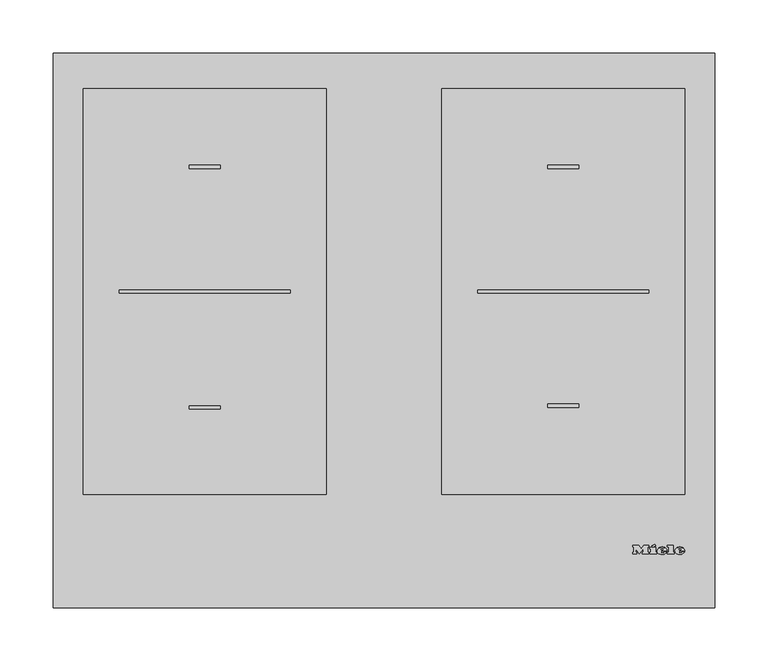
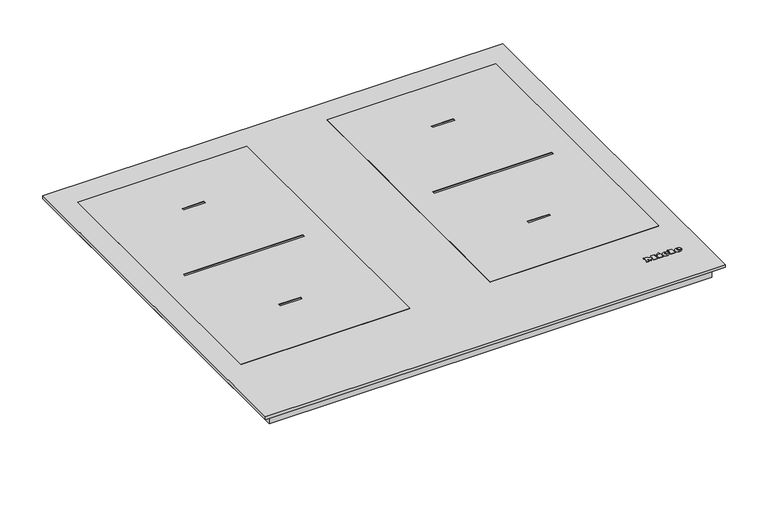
"""IFC4 building model written with IfcOpenShell, lengths in millimetres: proxy geometry, 11206090_RU_KM7465FL : 26746570_RU_11206090_KM7465FL."""

import ifcopenshell
import ifcopenshell.guid

model = None  # the IFC model being written
_history = None  # IfcOwnerHistory: only IFC2X3 demands one
_inside = {}  # id of a spatial element -> (the spatial element, [elements in it])
_under = {}  # id of a project, library or spatial element -> (it, [spatial elements below it])
_declared = {}  # id of a project -> (the project, [libraries it declares])
_typed = {}  # id of a type object -> (the type object, [elements of that type])
_made_of = {}  # id of a material, layer set ... -> (it, [elements and type objects made of it])


def new_model(schema):
    """Start an empty IFC model of exactly this schema.

    Asked for "IFC4X3", IfcOpenShell would pick the latest addendum, in which some entities
    have other attributes; the version numbers below select the first issue.
    IFC2X3 requires an IfcOwnerHistory on every rooted entity: one is made here for all.
    """
    global model, _history
    if schema == "IFC4X3":
        model = ifcopenshell.file(schema_version=(4, 3, 0, 0))
    else:
        model = ifcopenshell.file(schema=schema)
    _inside.clear()
    _under.clear()
    _declared.clear()
    _typed.clear()
    _made_of.clear()
    _history = None
    if model.schema == "IFC2X3":
        org = make("IfcOrganization", Name="unknown")
        user = make(
            "IfcPersonAndOrganization",
            ThePerson=make("IfcPerson", FamilyName="unknown"),
            TheOrganization=org,
        )
        app = make(
            "IfcApplication",
            ApplicationDeveloper=org,
            Version="unknown",
            ApplicationFullName="unknown",
            ApplicationIdentifier="unknown",
        )
        _history = make(
            "IfcOwnerHistory",
            OwningUser=user,
            OwningApplication=app,
            ChangeAction="ADDED",
            CreationDate=0,
        )
    return model


def make(cls, **values):
    """One entity of the class cls with the attributes given. An attribute that is None is left unset."""
    return model.create_entity(
        cls, **{name: value for name, value in values.items() if value is not None}
    )


def rooted(cls, **values):
    """An entity with a GlobalId (a new one), such as an element, a storey or a relation."""
    return make(cls, GlobalId=ifcopenshell.guid.new(), OwnerHistory=_history, **values)


def si_unit(unit_type, name, prefix=None):
    """IfcSIUnit, for example si_unit("LENGTHUNIT", "METRE", prefix="MILLI")."""
    return make("IfcSIUnit", UnitType=unit_type, Prefix=prefix, Name=name)


def assignment(units):
    """IfcUnitAssignment: the units of a project."""
    return None if units is None else make("IfcUnitAssignment", Units=units)


def point(xyz):
    """IfcCartesianPoint."""
    return None if xyz is None else make("IfcCartesianPoint", Coordinates=xyz)


def direction(xyz):
    """IfcDirection."""
    return None if xyz is None else make("IfcDirection", DirectionRatios=xyz)


def frame(location, z_axis=None, x_axis=None):
    """IfcAxis2Placement3D, a coordinate frame: its origin and axes. An axis left out is left unset."""
    return make(
        "IfcAxis2Placement3D",
        Location=point(location),
        Axis=direction(z_axis),
        RefDirection=direction(x_axis),
    )


def frame_2d(location, x_axis=None):
    """IfcAxis2Placement2D, a coordinate frame in the plane: its origin and x axis."""
    return make(
        "IfcAxis2Placement2D", Location=point(location), RefDirection=direction(x_axis)
    )


def origin():
    """The frame at (0, 0, 0) with its axes left unset."""
    return frame((0.0, 0.0, 0.0))


def origin_with_axes():
    """The frame at (0, 0, 0) with the z axis (0, 0, 1) and the x axis (1, 0, 0) written out."""
    return frame((0.0, 0.0, 0.0), z_axis=(0.0, 0.0, 1.0), x_axis=(1.0, 0.0, 0.0))


def place(relative_to, where):
    """IfcLocalPlacement: puts the frame where relative to a parent placement (None: the world)."""
    return make(
        "IfcLocalPlacement", PlacementRelTo=relative_to, RelativePlacement=where
    )


def context(
    kind, dimensions, precision=None, world=None, true_north=None, identifier=None
):
    """IfcGeometricRepresentationContext, for example the 3D "Model" context."""
    return make(
        "IfcGeometricRepresentationContext",
        ContextIdentifier=identifier,
        ContextType=kind,
        CoordinateSpaceDimension=dimensions,
        Precision=precision,
        WorldCoordinateSystem=world,
        TrueNorth=true_north,
    )


def project(units=None, contexts=None):
    """IfcProject with its units and contexts."""
    return rooted(
        "IfcProject",
        Name="project",
        RepresentationContexts=contexts,
        UnitsInContext=assignment(units),
    )


def spatial(cls, under=None, at=None, **own):
    """A site, building, storey or space (cls), placed at a placement, below another one or the project."""
    s = rooted(cls, ObjectPlacement=at, **own)
    if under is not None:
        _under.setdefault(under.id(), (under, []))[1].append(s)
    return s


def polyline(points):
    """IfcPolyline through the points."""
    return make("IfcPolyline", Points=[point(p) for p in points])


def circle_curve(where, radius):
    """IfcCircle in the frame where."""
    return make("IfcCircle", Position=where, Radius=radius)


def ellipse_curve(where, semi_axis1, semi_axis2):
    """IfcEllipse in the frame where."""
    return make(
        "IfcEllipse", Position=where, SemiAxis1=semi_axis1, SemiAxis2=semi_axis2
    )


def trimmed(basis, trim1, trim2, sense, master):
    """IfcTrimmedCurve: the piece of a basis curve between two trims."""
    return make(
        "IfcTrimmedCurve",
        BasisCurve=basis,
        Trim1=trim1,
        Trim2=trim2,
        SenseAgreement=sense,
        MasterRepresentation=master,
    )


def segment(curve, same_sense, transition):
    """IfcCompositeCurveSegment."""
    return make(
        "IfcCompositeCurveSegment",
        Transition=transition,
        SameSense=same_sense,
        ParentCurve=curve,
    )


def composite_curve(segments, self_intersect=None):
    """IfcCompositeCurve: segments joined end to end."""
    return make("IfcCompositeCurve", Segments=segments, SelfIntersect=self_intersect)


def outline(outer, holes=None, kind="AREA"):
    """IfcArbitraryClosedProfileDef: a profile drawn as a closed curve; with holes, ...WithVoids."""
    if holes is None:
        return make("IfcArbitraryClosedProfileDef", ProfileType=kind, OuterCurve=outer)
    return make(
        "IfcArbitraryProfileDefWithVoids",
        ProfileType=kind,
        OuterCurve=outer,
        InnerCurves=holes,
    )


def extrude(swept, where, along, depth):
    """IfcExtrudedAreaSolid: the profile swept, set in the frame where, extruded along a direction by depth."""
    return make(
        "IfcExtrudedAreaSolid",
        SweptArea=swept,
        Position=where,
        ExtrudedDirection=direction(along),
        Depth=depth,
    )


def shape(context_of_items, identifier, shape_type, items):
    """IfcShapeRepresentation: the items that make up one representation, for example the "Body"."""
    return make(
        "IfcShapeRepresentation",
        ContextOfItems=context_of_items,
        RepresentationIdentifier=identifier,
        RepresentationType=shape_type,
        Items=items,
    )


def source(mapping_origin, context_of_items, identifier, shape_type, items):
    """IfcRepresentationMap: a shape defined once, which mapped items show again and again."""
    return make(
        "IfcRepresentationMap",
        MappingOrigin=mapping_origin,
        MappedRepresentation=shape(context_of_items, identifier, shape_type, items),
    )


def transform(
    local_origin,
    x_axis=None,
    y_axis=None,
    z_axis=None,
    scale=None,
    scale2=None,
    scale3=None,
    uniform=True,
):
    """IfcCartesianTransformationOperator3D, or its non-uniform kind. x_axis, y_axis, z_axis: its Axis1, 2, 3."""
    if uniform:
        return make(
            "IfcCartesianTransformationOperator3D",
            Axis1=direction(x_axis),
            Axis2=direction(y_axis),
            LocalOrigin=point(local_origin),
            Scale=scale,
            Axis3=direction(z_axis),
        )
    return make(
        "IfcCartesianTransformationOperator3DnonUniform",
        Axis1=direction(x_axis),
        Axis2=direction(y_axis),
        LocalOrigin=point(local_origin),
        Scale=scale,
        Axis3=direction(z_axis),
        Scale2=scale2,
        Scale3=scale3,
    )


def mapped(mapping_source, mapping_target):
    """IfcMappedItem: shows the shape of a source again, moved by a transform."""
    return make(
        "IfcMappedItem", MappingSource=mapping_source, MappingTarget=mapping_target
    )


def made_of(thing, what):
    """Note that an element or type object is made of a material, layer set ...; save() writes the relation."""
    if what is not None:
        _made_of.setdefault(what.id(), (what, []))[1].append(thing)
    return thing


def element(
    cls,
    number,
    at=None,
    inside=None,
    cuts=None,
    type_object=None,
    material=None,
    context=None,
    identifier="Body",
    shape_type=None,
    held_by="IfcProductDefinitionShape",
    body=None,
    shapes=None,
    **own,
):
    """One element of the class cls, such as IfcWall. Its Tag is "e" and its number.

    at: its placement. inside: the storey or other place that contains it. cuts: it is an
    opening in that element (IfcRelVoidsElement). A single representation is given by context,
    identifier, shape_type and body (its items); several are given by shapes. held_by: the class
    of the entity that holds the representations. save() writes the other relations.
    """
    e = rooted(cls, Tag="e%d" % number, ObjectPlacement=at, **own)
    if body is not None:
        shapes = [shape(context, identifier, shape_type, body)]
    if shapes is not None:
        e.Representation = make(held_by, Representations=shapes)
    if inside is not None:
        _inside.setdefault(inside.id(), (inside, []))[1].append(e)
    if cuts is not None:
        rooted(
            "IfcRelVoidsElement", RelatingBuildingElement=cuts, RelatedOpeningElement=e
        )
    if type_object is not None:
        _typed.setdefault(type_object.id(), (type_object, []))[1].append(e)
    return made_of(e, material)


def aggregate(whole, parts):
    """IfcRelAggregates: a whole, such as a stair, and the parts it consists of."""
    return rooted("IfcRelAggregates", RelatingObject=whole, RelatedObjects=parts)


def save(model, path):
    """Write the relations noted so far, then the file.

    IfcRelAggregates (storeys below a building ...), IfcRelContainedInSpatialStructure (elements
    in a storey), IfcRelDefinesByType, IfcRelAssociatesMaterial and IfcRelDeclares: one each for
    every whole, place, type object, material and project.
    """
    for whole, parts in _under.values():
        aggregate(whole, parts)
    for where, things in _inside.values():
        rooted(
            "IfcRelContainedInSpatialStructure",
            RelatedElements=things,
            RelatingStructure=where,
        )
    for kind, things in _typed.values():
        rooted("IfcRelDefinesByType", RelatedObjects=things, RelatingType=kind)
    for what, things in _made_of.values():
        rooted("IfcRelAssociatesMaterial", RelatedObjects=things, RelatingMaterial=what)
    for by, libraries in _declared.values():
        rooted("IfcRelDeclares", RelatingContext=by, RelatedDefinitions=libraries)
    model.write(path)


def plane_surface(at):
    """IfcPlane: the flat surface through the origin of the frame at, square to its z axis."""
    return make("IfcPlane", Position=at)


def cylinder_surface(at, radius):
    """IfcCylindricalSurface: all points at the distance radius from the z axis of the frame at."""
    return make("IfcCylindricalSurface", Position=at, Radius=radius)


def revolved_surface(curve, axis_point, axis_direction):
    """IfcSurfaceOfRevolution: the curve turned about the line through axis_point along axis_direction."""
    return make(
        "IfcSurfaceOfRevolution",
        SweptCurve=make("IfcArbitraryOpenProfileDef", ProfileType="CURVE", Curve=curve),
        AxisPosition=make("IfcAxis1Placement", Location=point(axis_point), Axis=direction(axis_direction)),
    )


def extruded_surface(curve, direction_of_extrusion, depth):
    """IfcSurfaceOfLinearExtrusion: the curve pushed along a direction by depth."""
    return make(
        "IfcSurfaceOfLinearExtrusion",
        SweptCurve=make("IfcArbitraryOpenProfileDef", ProfileType="CURVE", Curve=curve),
        ExtrudedDirection=direction(direction_of_extrusion),
        Depth=depth,
    )


def advanced_brep(points, edges, surfaces, faces):
    """IfcAdvancedBrep: a solid bounded by faces that lie on surfaces and meet in shared edges.

    An edge is (start, end): straight between two places in points (the first is 0);
    or (start, end, curve); or (start, end, curve, False) where it runs against its curve.
    A face is (place in surfaces, loops), or (place, loops, False) where it looks against
    its surface's normal. A loop lists edges by number (the first is 1), with a minus sign
    where the edge is run from its end to its start. The first loop is the outer one.
    """
    corners = [point(p) for p in points]
    vertices = [make("IfcVertexPoint", VertexGeometry=c) for c in corners]
    made = []
    for start, end, *more in edges:
        made.append(
            make(
                "IfcEdgeCurve",
                EdgeStart=vertices[start],
                EdgeEnd=vertices[end],
                EdgeGeometry=more[0] if more else make("IfcPolyline", Points=[corners[start], corners[end]]),
                SameSense=more[1] if len(more) > 1 else True,
            )
        )
    hull = []
    for where, loops, *sense in faces:
        bounds = []
        for j, loop in enumerate(loops):
            ring = [make("IfcOrientedEdge", EdgeElement=made[abs(k) - 1], Orientation=k > 0) for k in loop]
            bounds.append(
                make(
                    "IfcFaceOuterBound" if j == 0 else "IfcFaceBound",
                    Bound=make("IfcEdgeLoop", EdgeList=ring),
                    Orientation=True,
                )
            )
        hull.append(make("IfcAdvancedFace", Bounds=bounds, FaceSurface=surfaces[where], SameSense=sense[0] if sense else True))
    return make("IfcAdvancedBrep", Outer=make("IfcClosedShell", CfsFaces=hull))


def specialty_equipment_fb43af33(model_context):
    return source(origin(), model_context, "Body", "SolidModel", [
        advanced_brep(
        [(276.66, 52.1948833, 4.4802537), (276.66, 53.0028828, 4.4811551), (282.012, 53.0028828, 4.4811551), (272.7, 53.0028828, 4.4811551), (274.9, 50.2988845, 4.4781386), (281.876, 52.1948833, 4.4802537), (279.46, 52.1948833, 4.4802537), (277.556, 51.2988838, 4.4792542), (276.66, 54.0268821, 4.4822974), (276.66, 54.8988816, 4.4832701), (278.028, 54.8988816, 4.4832701), (278.028, 54.0268821, 4.4822974), (276.66, 52.1959988, 3.4802543), (277.556, 51.2999994, 3.4792548), (279.46, 52.1959988, 3.4802543), (281.876, 52.1959988, 3.4802543), (274.9, 50.3, 3.4781393), (272.7, 53.0039983, 3.4811557), (282.012, 53.0039983, 3.4811557), (276.66, 53.0039983, 3.4811557), (276.66, 54.0279977, 3.482298), (278.028, 54.0279977, 3.482298), (278.028, 54.8999971, 3.4832707), (276.66, 54.8999971, 3.4832707)],
        [
            (0, 1),
            (1, 2),
            (2, 3, ellipse_curve(frame((277.356, 53.0028828, 4.4811551), z_axis=(0.0, -0.0011155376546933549, 0.9999993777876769), x_axis=(-1.0, 0.0, 0.0)), 4.656, 3.848)),
            (3, 4, circle_curve(frame((275.7960436, 53.2748826, 4.4814585), z_axis=(0.0, -0.0011155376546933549, 0.9999993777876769), x_axis=(0.0, -0.9999993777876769, -0.0011155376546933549)), 3.1079688)),
            (4, 5, circle_curve(frame((277.2627936, 55.3868813, 4.4838145), z_axis=(0.0, -0.0011155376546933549, 0.9999993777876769), x_axis=(0.0, -0.9999993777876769, -0.0011155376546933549)), 5.6098607)),
            (5, 6),
            (6, 7, circle_curve(frame((277.9470588, 52.9388828, 4.4810837), z_axis=(0.0, 0.0011155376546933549, -0.9999993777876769), x_axis=(0.0, -0.9999993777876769, -0.0011155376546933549)), 1.6859795)),
            (7, 0, circle_curve(frame((277.556, 52.1948833, 4.4802537), z_axis=(0.0, 0.0011155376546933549, -0.9999993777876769), x_axis=(0.0, -0.9999993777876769, -0.0011155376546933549)), 0.896)),
            (8, 9),
            (9, 10, circle_curve(frame((277.344, 54.8988816, 4.4832701), z_axis=(0.0, 0.0011155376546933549, -0.9999993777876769), x_axis=(0.0, -0.9999993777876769, -0.0011155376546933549)), 0.684)),
            (10, 11),
            (11, 8),
            (12, 13, circle_curve(frame((277.556, 52.1959988, 3.4802543), z_axis=(0.0, -0.0011155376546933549, 0.9999993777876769), x_axis=(0.0, -0.9999993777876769, -0.0011155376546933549)), 0.896)),
            (13, 14, circle_curve(frame((277.9470588, 52.9399984, 3.4810843), z_axis=(0.0, -0.0011155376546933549, 0.9999993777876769), x_axis=(0.0, -0.9999993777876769, -0.0011155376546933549)), 1.6859795)),
            (14, 15),
            (15, 16, circle_curve(frame((277.2627936, 55.3879968, 3.4838151), z_axis=(0.0, 0.0011155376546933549, -0.9999993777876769), x_axis=(0.0, -0.9999993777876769, -0.0011155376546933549)), 5.6098607)),
            (16, 17, circle_curve(frame((275.7960436, 53.2759981, 3.4814591), z_axis=(0.0, 0.0011155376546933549, -0.9999993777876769), x_axis=(0.0, -0.9999993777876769, -0.0011155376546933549)), 3.1079688)),
            (17, 18, ellipse_curve(frame((277.356, 53.0039983, 3.4811557), z_axis=(0.0, 0.0011155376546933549, -0.9999993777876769), x_axis=(-1.0, 0.0, 0.0)), 4.656, 3.848)),
            (18, 19),
            (19, 12),
            (20, 21),
            (21, 22),
            (22, 23, circle_curve(frame((277.344, 54.8999971, 3.4832707), z_axis=(0.0, -0.0011155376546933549, 0.9999993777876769), x_axis=(0.0, -0.9999993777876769, -0.0011155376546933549)), 0.684)),
            (23, 20),
            (0, 12),
            (19, 1),
            (18, 2),
            (5, 15),
            (14, 6),
            (17, 3),
            (13, 7),
            (16, 4),
            (8, 20),
            (23, 9),
            (22, 10),
            (21, 11),
        ],
        [
            plane_surface(frame((276.66, 53.0028828, 4.4811551), z_axis=(0.0, -0.0011155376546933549, 0.9999993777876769), x_axis=(0.0, 0.9999993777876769, 0.0011155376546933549))),
            plane_surface(frame((276.66, 53.0039983, 3.4811557), z_axis=(0.0, 0.0011155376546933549, -0.9999993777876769), x_axis=(0.0, -0.9999993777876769, -0.0011155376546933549))),
            plane_surface(frame((276.66, 52.1948833, 4.4802537), z_axis=(1.0000000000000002, 0.0, 0.0), x_axis=(0.0, 0.001115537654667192, -0.999999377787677))),
            plane_surface(frame((276.66, 53.0028828, 4.4811551), z_axis=(0.0, -0.999999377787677, -0.001115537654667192), x_axis=(0.0, 0.001115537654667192, -0.999999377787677))),
            plane_surface(frame((281.876, 52.1948833, 4.4802537), z_axis=(0.0, 0.999999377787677, 0.001115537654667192), x_axis=(0.0, 0.001115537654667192, -0.999999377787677))),
            extruded_surface(trimmed(ellipse_curve(frame((277.356, 53.0051139, 2.4811563), z_axis=(0.0, -0.0011155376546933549, 0.9999993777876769), x_axis=(-1.0, 0.0, 0.0)), 4.656, 3.848), [point((282.012, 53.0051139, 2.4811563))], [point((272.7, 53.0051139, 2.4811563))], True, "CARTESIAN"), (0.0, -0.001115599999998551, 0.9999994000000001), 1.00000002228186),
            revolved_surface(polyline([(277.9470588, 51.25401994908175, 3.479203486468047), (277.9470588, 51.25290441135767, 4.4792029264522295)]), (277.9470588, 52.9399984, 3.4810843), (0.0, 0.0011155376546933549, -0.9999993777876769)),
            revolved_surface(polyline([(277.556, 51.29999935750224, 3.4792547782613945), (277.556, 51.29888381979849, 4.479254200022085)]), (277.556, 52.1959988, 3.4802543), (0.0, 0.0011155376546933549, -0.9999993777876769)),
            cylinder_surface(frame((275.7960436, 53.2759981, 3.4814591), z_axis=(0.0, -0.0011155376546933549, 0.9999993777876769), x_axis=(0.0, -0.9999993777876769, -0.0011155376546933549)), 3.1079688),
            cylinder_surface(frame((277.2627936, 55.3879968, 3.4838151), z_axis=(0.0, -0.0011155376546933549, 0.9999993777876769), x_axis=(0.0, -0.9999993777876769, -0.0011155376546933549)), 5.6098607),
            plane_surface(frame((276.66, 54.0268821, 4.4822974), z_axis=(1.0000000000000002, 0.0, 0.0), x_axis=(0.0, 0.001115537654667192, -0.999999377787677))),
            revolved_surface(polyline([(277.344, 54.21599752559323, 3.4825076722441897), (277.344, 54.214881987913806, 4.482507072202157)]), (277.344, 54.8999971, 3.4832707), (0.0, 0.0011155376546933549, -0.9999993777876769)),
            plane_surface(frame((278.028, 54.8988816, 4.4832701), z_axis=(-1.0000000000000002, 0.0, 0.0), x_axis=(0.0, 0.001115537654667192, -0.999999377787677))),
            plane_surface(frame((278.028, 54.0268821, 4.4822974), z_axis=(0.0, 0.999999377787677, 0.001115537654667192), x_axis=(0.0, 0.001115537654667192, -0.999999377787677))),
        ],
        [
            (0, [[1, 2, 3, 4, 5, 6, 7, 8], [9, 10, 11, 12]]),
            (1, [[13, 14, 15, 16, 17, 18, 19, 20], [21, 22, 23, 24]]),
            (2, [[-1, 25, -20, 26]]),
            (3, [[-2, -26, -19, 27]]),
            (4, [[-6, 28, -15, 29]]),
            (5, [[-3, -27, -18, 30]]),
            (6, [[-7, -29, -14, 31]]),
            (7, [[-8, -31, -13, -25]]),
            (8, [[-4, -30, -17, 32]]),
            (9, [[-5, -32, -16, -28]]),
            (10, [[-9, 33, -24, 34]]),
            (11, [[-10, -34, -23, 35]]),
            (12, [[-11, -35, -22, 36]]),
            (13, [[-12, -36, -21, -33]]),
        ],
    ),
        advanced_brep(
        [(259.964, 52.1948833, 4.4802537), (259.964, 53.0028828, 4.4811551), (265.316, 53.0028828, 4.4811551), (256.004, 53.0028828, 4.4811551), (258.204, 50.2988845, 4.4781386), (265.18, 52.1948833, 4.4802537), (262.764, 52.1948833, 4.4802537), (260.86, 51.2988838, 4.4792542), (259.964, 54.0268821, 4.4822974), (259.964, 54.8988816, 4.4832701), (261.332, 54.8988816, 4.4832701), (261.332, 54.0268821, 4.4822974), (259.964, 52.1959988, 3.4802543), (260.86, 51.2999994, 3.4792548), (262.764, 52.1959988, 3.4802543), (265.18, 52.1959988, 3.4802543), (258.204, 50.3, 3.4781393), (256.004, 53.0039983, 3.4811557), (265.316, 53.0039983, 3.4811557), (259.964, 53.0039983, 3.4811557), (259.964, 54.0279977, 3.482298), (261.332, 54.0279977, 3.482298), (261.332, 54.8999971, 3.4832707), (259.964, 54.8999971, 3.4832707)],
        [
            (0, 1),
            (1, 2),
            (2, 3, ellipse_curve(frame((260.66, 53.0028828, 4.4811551), z_axis=(0.0, -0.0011155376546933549, 0.9999993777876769), x_axis=(-1.0, 0.0, 0.0)), 4.656, 3.848)),
            (3, 4, circle_curve(frame((259.1000436, 53.2748826, 4.4814585), z_axis=(0.0, -0.0011155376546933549, 0.9999993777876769), x_axis=(0.0, -0.9999993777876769, -0.0011155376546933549)), 3.1079688)),
            (4, 5, circle_curve(frame((260.5667936, 55.3868813, 4.4838145), z_axis=(0.0, -0.0011155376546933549, 0.9999993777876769), x_axis=(0.0, -0.9999993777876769, -0.0011155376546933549)), 5.6098607)),
            (5, 6),
            (6, 7, circle_curve(frame((261.2510588, 52.9388828, 4.4810837), z_axis=(0.0, 0.0011155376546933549, -0.9999993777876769), x_axis=(0.0, -0.9999993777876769, -0.0011155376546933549)), 1.6859795)),
            (7, 0, circle_curve(frame((260.86, 52.1948833, 4.4802537), z_axis=(0.0, 0.0011155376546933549, -0.9999993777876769), x_axis=(0.0, -0.9999993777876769, -0.0011155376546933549)), 0.896)),
            (8, 9),
            (9, 10, circle_curve(frame((260.648, 54.8988816, 4.4832701), z_axis=(0.0, 0.0011155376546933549, -0.9999993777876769), x_axis=(0.0, -0.9999993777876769, -0.0011155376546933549)), 0.684)),
            (10, 11),
            (11, 8),
            (12, 13, circle_curve(frame((260.86, 52.1959988, 3.4802543), z_axis=(0.0, -0.0011155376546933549, 0.9999993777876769), x_axis=(0.0, -0.9999993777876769, -0.0011155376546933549)), 0.896)),
            (13, 14, circle_curve(frame((261.2510588, 52.9399984, 3.4810843), z_axis=(0.0, -0.0011155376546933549, 0.9999993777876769), x_axis=(0.0, -0.9999993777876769, -0.0011155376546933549)), 1.6859795)),
            (14, 15),
            (15, 16, circle_curve(frame((260.5667936, 55.3879968, 3.4838151), z_axis=(0.0, 0.0011155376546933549, -0.9999993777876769), x_axis=(0.0, -0.9999993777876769, -0.0011155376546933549)), 5.6098607)),
            (16, 17, circle_curve(frame((259.1000436, 53.2759981, 3.4814591), z_axis=(0.0, 0.0011155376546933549, -0.9999993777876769), x_axis=(0.0, -0.9999993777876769, -0.0011155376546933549)), 3.1079688)),
            (17, 18, ellipse_curve(frame((260.66, 53.0039983, 3.4811557), z_axis=(0.0, 0.0011155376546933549, -0.9999993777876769), x_axis=(-1.0, 0.0, 0.0)), 4.656, 3.848)),
            (18, 19),
            (19, 12),
            (20, 21),
            (21, 22),
            (22, 23, circle_curve(frame((260.648, 54.8999971, 3.4832707), z_axis=(0.0, -0.0011155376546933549, 0.9999993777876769), x_axis=(0.0, -0.9999993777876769, -0.0011155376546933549)), 0.684)),
            (23, 20),
            (0, 12),
            (19, 1),
            (18, 2),
            (5, 15),
            (14, 6),
            (17, 3),
            (13, 7),
            (16, 4),
            (8, 20),
            (23, 9),
            (22, 10),
            (21, 11),
        ],
        [
            plane_surface(frame((259.964, 53.0028828, 4.4811551), z_axis=(0.0, -0.0011155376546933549, 0.9999993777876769), x_axis=(0.0, 0.9999993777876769, 0.0011155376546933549))),
            plane_surface(frame((259.964, 53.0039983, 3.4811557), z_axis=(0.0, 0.0011155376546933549, -0.9999993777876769), x_axis=(0.0, -0.9999993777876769, -0.0011155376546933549))),
            plane_surface(frame((259.964, 52.1948833, 4.4802537), z_axis=(1.0000000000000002, 0.0, 0.0), x_axis=(0.0, 0.001115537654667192, -0.999999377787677))),
            plane_surface(frame((259.964, 53.0028828, 4.4811551), z_axis=(0.0, -0.999999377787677, -0.001115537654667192), x_axis=(0.0, 0.001115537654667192, -0.999999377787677))),
            plane_surface(frame((265.18, 52.1948833, 4.4802537), z_axis=(0.0, 0.999999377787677, 0.001115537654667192), x_axis=(0.0, 0.001115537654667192, -0.999999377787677))),
            extruded_surface(trimmed(ellipse_curve(frame((260.66, 53.0051139, 2.4811563), z_axis=(0.0, -0.0011155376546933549, 0.9999993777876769), x_axis=(-1.0, 0.0, 0.0)), 4.656, 3.848), [point((265.316, 53.0051139, 2.4811563))], [point((256.004, 53.0051139, 2.4811563))], True, "CARTESIAN"), (0.0, -0.001115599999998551, 0.9999994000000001), 1.00000002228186),
            revolved_surface(polyline([(261.2510588, 51.25401994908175, 3.479203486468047), (261.2510588, 51.25290441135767, 4.4792029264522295)]), (261.2510588, 52.9399984, 3.4810843), (0.0, 0.0011155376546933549, -0.9999993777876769)),
            revolved_surface(polyline([(260.86, 51.29999935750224, 3.4792547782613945), (260.86, 51.29888381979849, 4.479254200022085)]), (260.86, 52.1959988, 3.4802543), (0.0, 0.0011155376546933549, -0.9999993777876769)),
            cylinder_surface(frame((259.1000436, 53.2759981, 3.4814591), z_axis=(0.0, -0.0011155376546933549, 0.9999993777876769), x_axis=(0.0, -0.9999993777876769, -0.0011155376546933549)), 3.1079688),
            cylinder_surface(frame((260.5667936, 55.3879968, 3.4838151), z_axis=(0.0, -0.0011155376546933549, 0.9999993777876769), x_axis=(0.0, -0.9999993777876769, -0.0011155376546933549)), 5.6098607),
            plane_surface(frame((259.964, 54.0268821, 4.4822974), z_axis=(1.0000000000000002, 0.0, 0.0), x_axis=(0.0, 0.001115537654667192, -0.999999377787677))),
            revolved_surface(polyline([(260.648, 54.21599752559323, 3.4825076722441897), (260.648, 54.214881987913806, 4.482507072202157)]), (260.648, 54.8999971, 3.4832707), (0.0, 0.0011155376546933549, -0.9999993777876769)),
            plane_surface(frame((261.332, 54.8988816, 4.4832701), z_axis=(-1.0000000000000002, 0.0, 0.0), x_axis=(0.0, 0.001115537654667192, -0.999999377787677))),
            plane_surface(frame((261.332, 54.0268821, 4.4822974), z_axis=(0.0, 0.999999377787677, 0.001115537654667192), x_axis=(0.0, 0.001115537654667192, -0.999999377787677))),
        ],
        [
            (0, [[1, 2, 3, 4, 5, 6, 7, 8], [9, 10, 11, 12]]),
            (1, [[13, 14, 15, 16, 17, 18, 19, 20], [21, 22, 23, 24]]),
            (2, [[-1, 25, -20, 26]]),
            (3, [[-2, -26, -19, 27]]),
            (4, [[-6, 28, -15, 29]]),
            (5, [[-3, -27, -18, 30]]),
            (6, [[-7, -29, -14, 31]]),
            (7, [[-8, -31, -13, -25]]),
            (8, [[-4, -30, -17, 32]]),
            (9, [[-5, -32, -16, -28]]),
            (10, [[-9, 33, -24, 34]]),
            (11, [[-10, -34, -23, 35]]),
            (12, [[-11, -35, -22, 36]]),
            (13, [[-12, -36, -21, -33]]),
        ],
    ),
        extrude(outline(polyline([(0.0, 0.0), (-0.0109086, -2.9993294), (-1.4390415, -2.9920868), (-1.4315307, 0.0), (0.0, 0.0)])), frame((251.22, 57.8279953, 3.486537), z_axis=(0.0, -0.001115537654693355, 0.9999993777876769), x_axis=(-0.4247202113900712, 0.9053240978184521, 0.0010099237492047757)), (0.0, 0.0, 1.0), 1.0),
        extrude(outline(polyline([(-0.4933908, 2.4141097), (-2.7800844, -2.4601583), (-7.0459741, -0.4588767), (-7.4401145, -1.299018), (-8.6568709, -0.728194), (-5.9760369, 4.9862153), (-4.7592805, 4.4153913), (-5.1636142, 3.5535222), (-2.1941493, 2.1604399), (-1.7898157, 3.022309), (-0.4933908, 2.4141097)])), frame((251.22, 57.8279953, 3.486537), z_axis=(0.0, -0.001115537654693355, 0.9999993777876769), x_axis=(-0.4247202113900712, 0.9053240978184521, 0.0010099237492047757)), (0.0, 0.0, 1.0), 1.0),
        extrude(outline(polyline([(0.0, 0.0), (0.0, -1.304), (-5.504, -1.304), (-5.504, 5.3519999), (-6.488, 5.3519999), (-6.488, 6.696), (0.0, 6.696), (0.0, 5.3519999), (-0.96, 5.3519999), (-0.96, 0.0), (0.0, 0.0)])), frame((265.764, 56.9959958, 3.4856089), z_axis=(0.0, -0.0011155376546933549, 0.9999993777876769), x_axis=(-1.0, 0.0, 0.0)), (0.0, 0.0, 1.0), 1.0),
        extrude(outline(polyline([(0.0, 0.0), (0.0, -1.304), (-5.576, -1.304), (-7.92, 1.696), (-10.256, -1.304), (-15.128, -1.304), (-15.128, 0.0), (-14.112, 0.0), (-14.112, 5.3519999), (-15.128, 5.3519999), (-15.128, 6.696), (-8.744, 6.696), (-8.744, 5.3519999), (-9.728, 5.3519999), (-9.728, 1.8807777), (-6.136, 6.696), (-2.56, 1.9488752), (-2.56, 5.3519999), (-3.52, 5.3519999), (-3.52, 6.696), (0.0, 6.696), (0.0, 5.3519999), (-0.968, 5.3519999), (-0.968, 0.0), (0.0, 0.0)])), frame((233.3, 56.9959958, 3.4856089), z_axis=(0.0, -0.0011155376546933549, 0.9999993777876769), x_axis=(-1.0, 0.0, 0.0)), (0.0, 0.0, 1.0), 1.0),
        extrude(outline(polyline([(310.0, 520.0), (310.0, 0.0), (-310.0, 0.0), (-310.0, 520.0), (310.0, 520.0)])), origin_with_axes(), (0.0, 0.0, 1.0), 4.0),
        extrude(outline(polyline([(298.5, 508.5), (298.5, 11.5), (-298.5, 11.5), (-298.5, 508.5), (298.5, 508.5)])), frame((0.0, 0.0, -16.8), z_axis=(0.0, 0.0, 1.0), x_axis=(1.0, 0.0, 0.0)), (0.0, 0.0, 1.0), 16.8),
        extrude(outline(polyline([(-202.8, 318.7), (-224.2, 318.7), (-224.2, 402.1), (-202.8, 402.1), (-202.8, 452.3), (203.2, 452.3), (203.2, 81.3), (-202.8, 81.3), (-202.8, 318.7)])), frame((0.0, 0.0, -46.5), z_axis=(0.0, 0.0, 1.0), x_axis=(1.0, 0.0, 0.0)), (0.0, 0.0, 1.0), 29.7),
        extrude(outline(polyline([(141.2772603, 415.5), (133.9, 415.5), (133.9, 416.7557039), (140.0215564, 416.7557039), (140.0215564, 420.0519266), (134.370889, 420.0519266), (134.370889, 421.3076304), (140.0215564, 421.3076304), (140.0215564, 424.2899271), (134.056963, 424.2899271), (134.056963, 425.545631), (141.2772603, 425.545631), (141.2772603, 415.5)])), frame((0.0, 0.0, -77.5), z_axis=(0.0, 0.0, 1.0), x_axis=(1.0, 0.0, 0.0)), (0.0, 0.0, 1.0), 1.0),
        extrude(outline(polyline([(132.0164442, 415.5), (125.7379248, 415.5), (125.7379248, 416.7557039), (130.7607403, 416.7557039), (130.7607403, 425.545631), (132.0164442, 425.545631), (132.0164442, 415.5)])), frame((0.0, 0.0, -77.5), z_axis=(0.0, 0.0, 1.0), x_axis=(1.0, 0.0, 0.0)), (0.0, 0.0, 1.0), 1.0),
        extrude(outline(composite_curve([segment(trimmed(circle_curve(frame_2d((133.9, 420.5)), 7.5), [point((133.9, 428.0))], [point((133.9, 413.0))], False, "CARTESIAN"), True, "CONTINUOUS"), segment(trimmed(circle_curve(frame_2d((133.9, 420.5)), 7.5), [point((133.9, 413.0))], [point((133.9, 428.0))], False, "CARTESIAN"), True, "CONTINUOUS")], self_intersect=False)), frame((0.0, 0.0, -76.5), z_axis=(0.0, 0.0, 1.0), x_axis=(1.0, 0.0, 0.0)), (0.0, 0.0, 1.0), 30.0),
        extrude(outline(polyline([(281.75, 486.75), (281.75, 106.25), (54.25, 106.25), (54.25, 486.75), (281.75, 486.75)]), holes=[polyline([(87.7, 298.1), (87.7, 294.9), (248.3, 294.9), (248.3, 298.1), (87.7, 298.1)]), polyline([(182.65, 414.85), (153.35, 414.85), (153.35, 411.65), (182.65, 411.65), (182.65, 414.85)]), polyline([(182.65, 190.95), (153.35, 190.95), (153.35, 187.75), (182.65, 187.75), (182.65, 190.95)])]), frame((0.0, 0.0, 4.0), z_axis=(0.0, 0.0, 1.0), x_axis=(1.0, 0.0, 0.0)), (0.0, 0.0, 1.0), 1.0),
        extrude(outline(polyline([(-54.25, 486.75), (-54.25, 106.25), (-281.75, 106.25), (-281.75, 486.75), (-54.25, 486.75)]), holes=[polyline([(-87.7, 298.1), (-248.3, 298.1), (-248.3, 294.9), (-87.7, 294.9), (-87.7, 298.1)]), polyline([(-153.35, 414.85), (-182.65, 414.85), (-182.65, 411.65), (-153.35, 411.65), (-153.35, 414.85)]), polyline([(-153.35, 189.35), (-182.65, 189.35), (-182.65, 186.15), (-153.35, 186.15), (-153.35, 189.35)])]), frame((0.0, 0.0, 4.0), z_axis=(0.0, 0.0, 1.0), x_axis=(1.0, 0.0, 0.0)), (0.0, 0.0, 1.0), 1.0),
        extrude(outline(composite_curve([segment(trimmed(circle_curve(frame_2d((-291.0, 80.0)), 3.0), [point((-291.0, 83.0))], [point((-291.0, 77.0))], False, "CARTESIAN"), True, "CONTINUOUS"), segment(trimmed(circle_curve(frame_2d((-291.0, 80.0)), 3.0), [point((-291.0, 77.0))], [point((-291.0, 83.0))], False, "CARTESIAN"), True, "CONTINUOUS")], self_intersect=False)), frame((0.0, 0.0, -22.0), z_axis=(0.0, 0.0, 1.0), x_axis=(1.0, 0.0, 0.0)), (0.0, 0.0, 1.0), 5.2),
        extrude(outline(composite_curve([segment(trimmed(circle_curve(frame_2d((291.0, 440.0)), 3.0), [point((291.0, 443.0))], [point((291.0, 437.0))], False, "CARTESIAN"), True, "CONTINUOUS"), segment(trimmed(circle_curve(frame_2d((291.0, 440.0)), 3.0), [point((291.0, 437.0))], [point((291.0, 443.0))], False, "CARTESIAN"), True, "CONTINUOUS")], self_intersect=False)), frame((0.0, 0.0, -22.0), z_axis=(0.0, 0.0, 1.0), x_axis=(1.0, 0.0, 0.0)), (0.0, 0.0, 1.0), 5.2),
    ])


if __name__ == "__main__":
    model = new_model("IFC4")
    model_context = context("Model", 3, world=origin())
    ifc_project = project(units=[si_unit("LENGTHUNIT", "METRE", prefix="MILLI")], contexts=[model_context])
    site = spatial("IfcSite", under=ifc_project)
    building = spatial("IfcBuilding", under=site)
    placement = place(None, origin())
    specialty_equipment_shape = specialty_equipment_fb43af33(model_context)
    element("IfcBuildingElementProxy", 1, Name="11206090_RU_KM7465FL : 26746570_RU_11206090_KM7465FL", ObjectType="11206090_RU_KM7465FL : 26746570_RU_11206090_KM7465FL", at=placement, inside=building, context=model_context, shape_type="MappedRepresentation", body=[
        mapped(specialty_equipment_shape, transform((0.0, 0.0, 0.0), x_axis=(1.0, 0.0, 0.0), y_axis=(0.0, 1.0, 0.0), z_axis=(0.0, 0.0, 1.0))),
    ])
    save(model, "model.ifc")
